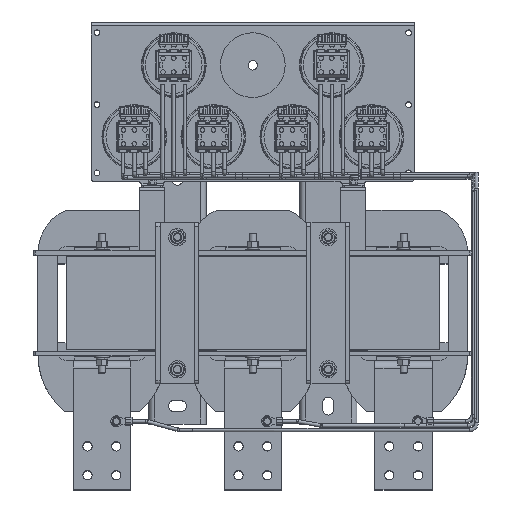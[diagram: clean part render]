
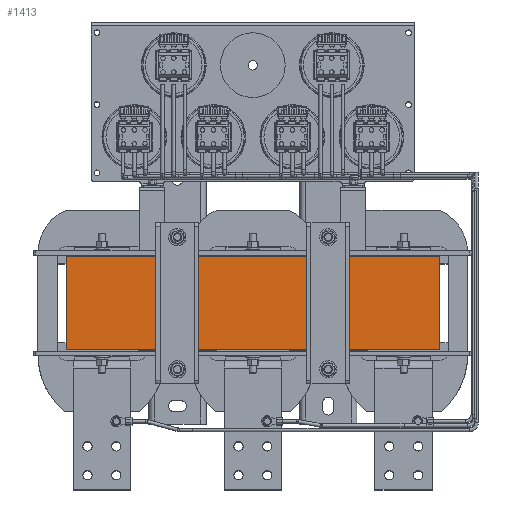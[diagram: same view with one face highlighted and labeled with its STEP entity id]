
A CAD part, top view. The second image highlights one B-rep face of the part: STEP entity #1413.
In plain terms, the highlighted planar face has unit normal (0, 0, 1).
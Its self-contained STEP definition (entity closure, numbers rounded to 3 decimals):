
#1413 = ADVANCED_FACE ( 'NONE', ( #106153 ), #67714, .T. ) ;
#4178 = DIRECTION ( 'NONE',  ( 0., -1., 0. ) ) ;
#8076 = VERTEX_POINT ( 'NONE', #25851 ) ;
#9696 = EDGE_CURVE ( 'NONE', #57388, #31550, #95769, .T. ) ;
#9921 = EDGE_CURVE ( 'NONE', #8076, #104379, #45035, .T. ) ;
#21300 = CARTESIAN_POINT ( 'NONE',  ( 260., 162.552, 600. ) ) ;
#25851 = CARTESIAN_POINT ( 'NONE',  ( -260., 160.916, 600. ) ) ;
#28347 = VECTOR ( 'NONE', #112720, 1000. ) ;
#31022 = CARTESIAN_POINT ( 'NONE',  ( 260., 30.912, 600. ) ) ;
#31550 = VERTEX_POINT ( 'NONE', #31022 ) ;
#37660 = DIRECTION ( 'NONE',  ( 1., 0., 0. ) ) ;
#41702 = AXIS2_PLACEMENT_3D ( 'NONE', #59182, #104950, #96399 ) ;
#45035 = LINE ( 'NONE', #92624, #28347 ) ;
#46406 = ORIENTED_EDGE ( 'NONE', *, *, #84875, .F. ) ;
#53050 = ORIENTED_EDGE ( 'NONE', *, *, #116525, .T. ) ;
#55837 = EDGE_LOOP ( 'NONE', ( #95891, #53050, #81245, #46406 ) ) ;
#57388 = VERTEX_POINT ( 'NONE', #111676 ) ;
#59182 = CARTESIAN_POINT ( 'NONE',  ( -225., 162.552, 600. ) ) ;
#59857 = CARTESIAN_POINT ( 'NONE',  ( 0., 160.916, 600. ) ) ;
#67714 = PLANE ( 'NONE',  #41702 ) ;
#68601 = CARTESIAN_POINT ( 'NONE',  ( -225., 30.912, 600. ) ) ;
#68674 = VECTOR ( 'NONE', #37660, 1000. ) ;
#81245 = ORIENTED_EDGE ( 'NONE', *, *, #9696, .F. ) ;
#84875 = EDGE_CURVE ( 'NONE', #8076, #57388, #106224, .T. ) ;
#87515 = LINE ( 'NONE', #68601, #68674 ) ;
#88316 = VECTOR ( 'NONE', #97069, 1000. ) ;
#92624 = CARTESIAN_POINT ( 'NONE',  ( -260., 162.552, 600. ) ) ;
#95769 = LINE ( 'NONE', #21300, #100390 ) ;
#95891 = ORIENTED_EDGE ( 'NONE', *, *, #9921, .T. ) ;
#96399 = DIRECTION ( 'NONE',  ( 1., 0., 0. ) ) ;
#97069 = DIRECTION ( 'NONE',  ( 1., 0., 0. ) ) ;
#100390 = VECTOR ( 'NONE', #4178, 1000. ) ;
#104379 = VERTEX_POINT ( 'NONE', #108024 ) ;
#104950 = DIRECTION ( 'NONE',  ( 0., 0., 1. ) ) ;
#106153 = FACE_OUTER_BOUND ( 'NONE', #55837, .T. ) ;
#106224 = LINE ( 'NONE', #59857, #88316 ) ;
#108024 = CARTESIAN_POINT ( 'NONE',  ( -260., 30.912, 600. ) ) ;
#111676 = CARTESIAN_POINT ( 'NONE',  ( 260., 160.916, 600. ) ) ;
#112720 = DIRECTION ( 'NONE',  ( 0., -1., 0. ) ) ;
#116525 = EDGE_CURVE ( 'NONE', #104379, #31550, #87515, .T. ) ;
